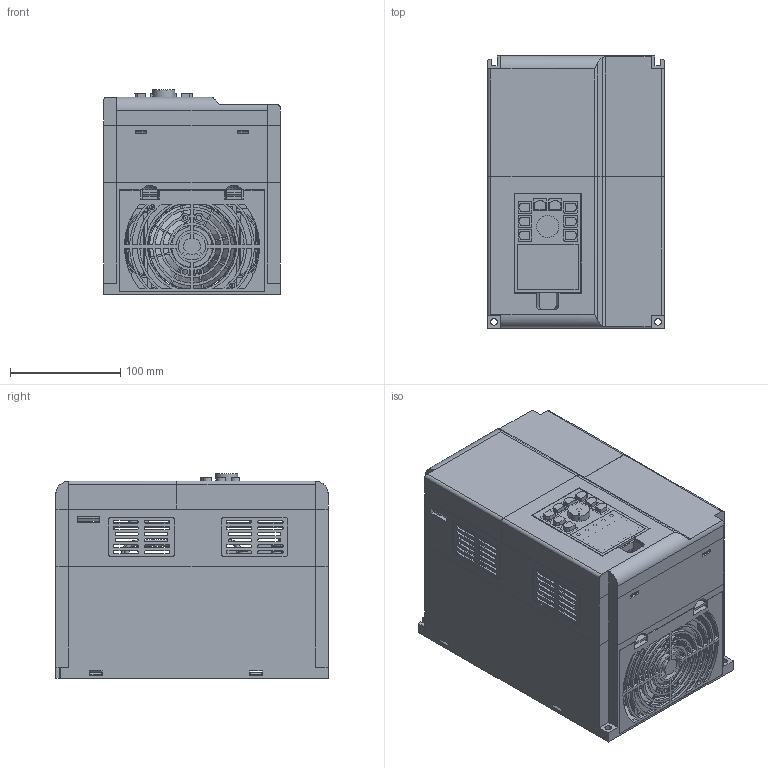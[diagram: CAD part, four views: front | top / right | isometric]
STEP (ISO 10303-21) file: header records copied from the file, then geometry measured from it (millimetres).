
FILE_DESCRIPTION(('STEP AP203'), '1');
FILE_NAME('Ïðåîáðàçîâàòåëü ÷àñòîòû _ LCI-G7.5P_11-4B', '', ('UNSPECIFIED'), ('UNSPECIFIED'), 'C3D Converter', 'C3D Toolkit', '');
FILE_SCHEMA(('CONFIG_CONTROL_DESIGN'));
Length unit declared in the file: millimetre
Products named in the file (19): LCI-G7.5P_11-4B; Панель управления; Панель управленния
Assembly tree (18 placements, depth 3):
  LCI-G7.5P_11-4B
    LCI-G7.5P_11-4B
    LCI-G7.5P_11-4B
    LCI-G7.5P_11-4B
    LCI-G7.5P_11-4B
    LCI-G7.5P_11-4B
    LCI-G7.5P_11-4B
    LCI-G7.5P_11-4B
    LCI-G7.5P_11-4B
    LCI-G7.5P_11-4B
    LCI-G7.5P_11-4B
    LCI-G7.5P_11-4B
    LCI-G7.5P_11-4B
      Панель управления
      Панель управленния
      Панель управления
      Панель управления
      Панель управленния
    LCI-G7.5P_11-4B
Bounding box: 160 x 246.6 x 185 mm (x, y, z)
Volume: 2032800.7 mm3; surface area: 1458762.8 mm2
Topology: 55 solids, 55 shells, 7680 faces, 20924 edges, 13837 vertices
Faces by surface type: plane 5378, extrusion 1256, cylinder 970, bspline 38, torus 38
Full cylindrical faces by diameter (mm): 1.2 x32, 2 x2, 2.4 x4, 2.5 x11, 2.6 x8, 3 x16, 3.4 x8, 3.5 x16, 3.9 x26, 4 x30, 4.5 x17, 4.8 x6, 5 x6, 5.5 x2, 5.8 x4, 6 x33, 6.2 x1, 6.5 x7, 7 x1, 8 x22, 8.2 x8, 8.5 x5, 9 x6, 10 x9, 20 x2, 35 x4, 37 x6
Entity records: 277639 total; most frequent: CARTESIAN_POINT 65093, ORIENTED_EDGE 41052, DIRECTION 34085, EDGE_CURVE 20526, VECTOR 16979, LINE 15723, VERTEX_POINT 13792, EDGE_LOOP 9080
